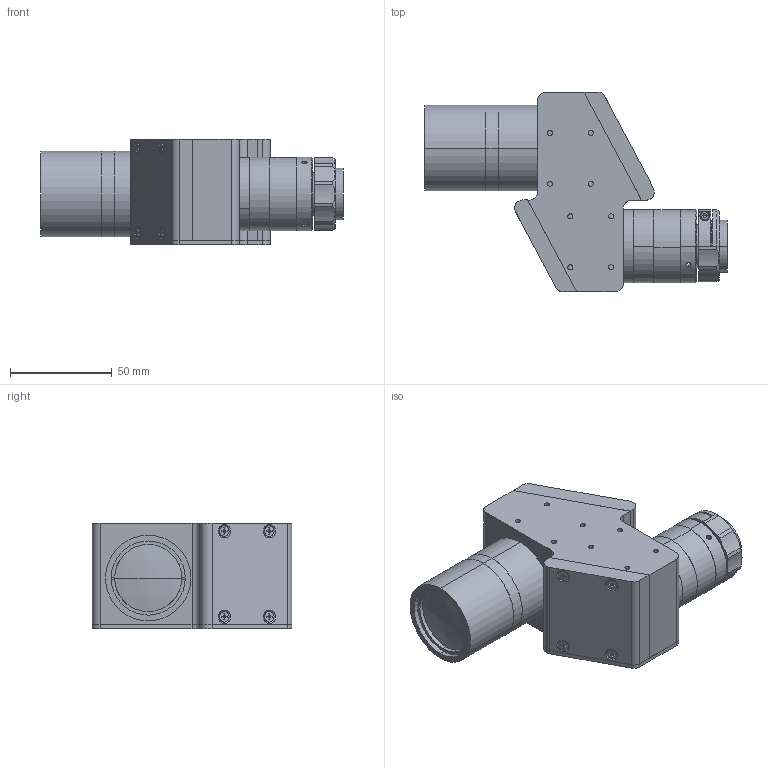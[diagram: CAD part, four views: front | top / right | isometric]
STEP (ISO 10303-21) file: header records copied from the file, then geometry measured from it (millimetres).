
FILE_DESCRIPTION (( 'STEP AP203' ), '1' );
FILE_NAME ('XF-MH035X589.STEP', '2020-08-24T07:16:49', ( 'canrill-02' ), ( '' ), 'SwSTEP 2.0', 'SolidWorks 2014', '' );
FILE_SCHEMA (( 'CONFIG_CONTROL_DESIGN' ));
Length unit declared in the file: millimetre
Products named in the file (1): XF-MH035X589
Bounding box: 148.47 x 98 x 52 mm (x, y, z)
Surface area: 45374.7 mm2 (no closed solid volume)
Topology: 0 solids, 31 shells, 431 faces, 1345 edges, 917 vertices
Faces by surface type: plane 229, cylinder 159, cone 39, sphere 2, torus 2
Entity records: 15263 total; most frequent: CARTESIAN_POINT 3013, DIRECTION 2655, ORIENTED_EDGE 2263, EDGE_CURVE 1343, VERTEX_POINT 917, AXIS2_PLACEMENT_3D 903, VECTOR 849, LINE 849
